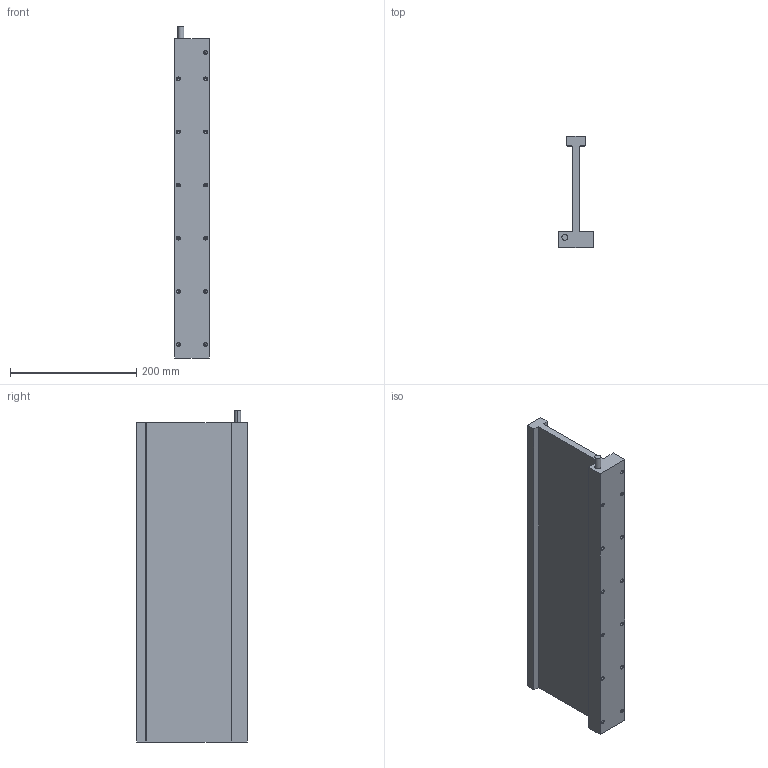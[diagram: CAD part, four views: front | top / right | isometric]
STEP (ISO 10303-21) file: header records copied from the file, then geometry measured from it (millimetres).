
FILE_DESCRIPTION (( 'STEP AP214' ), '1' );
FILE_NAME ('JKA6-2.STEP', '2025-09-05T12:53:06', ( '' ), ( '' ), 'SwSTEP 2.0', 'SolidWorks 2016', '' );
FILE_SCHEMA (( 'AUTOMOTIVE_DESIGN' ));
Length unit declared in the file: millimetre
Products named in the file (1): JKA6-2
Bounding box: 55.1 x 175.5 x 525 mm (x, y, z)
Volume: 1660504.2 mm3; surface area: 261036.2 mm2
Topology: 1 solids, 1 shells, 95 faces, 224 edges, 119 vertices
Faces by surface type: cone 52, cylinder 28, plane 15
Entity records: 2822 total; most frequent: DIRECTION 472, CARTESIAN_POINT 413, ORIENTED_EDGE 396, EDGE_CURVE 198, AXIS2_PLACEMENT_3D 178, VERTEX_POINT 119, VECTOR 116, LINE 116
